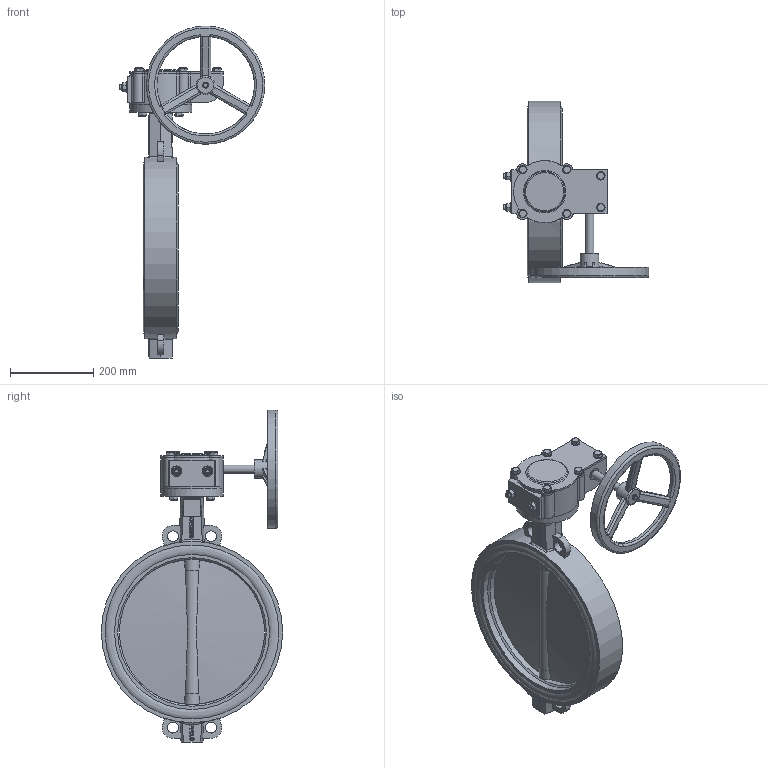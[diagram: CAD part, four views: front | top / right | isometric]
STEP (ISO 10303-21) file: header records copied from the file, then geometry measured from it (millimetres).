
FILE_DESCRIPTION(('STEP AP242'), '1');
FILE_NAME('Ïîâîðîòíûé çàòâîð ïîä ýëåêòðîïðèâîä', '', ('UNSPECIFIED'), ('UNSPECIFIED'), 'C3D Converter', 'C3D Toolkit', '');
FILE_SCHEMA(('AP242_MANAGED_MODEL_BASED_3D_ENGINEERING_MIM_LF { 1 0 10303 442 1 1 4 }'));
Length unit declared in the file: millimetre
Products named in the file (17): П
Assembly tree (36 placements, depth 3):
  (unnamed)
    (unnamed)
    П  x2
    (unnamed)
    (unnamed)
    (unnamed)
    (unnamed)
      (unnamed)
      (unnamed)
      (unnamed)
      (unnamed)
      (unnamed)  x6
      (unnamed)  x6
      (unnamed)  x2
      (unnamed)  x2
      (unnamed)
    (unnamed)  x4
    (unnamed)  x4
Bounding box: 350.5 x 437 x 799.5 mm (x, y, z)
Volume: 9542012.8 mm3; surface area: 1427644 mm2
Topology: 35 solids, 35 shells, 826 faces, 1975 edges, 1278 vertices
Faces by surface type: plane 387, extrusion 157, cylinder 145, bspline 60, cone 44, torus 29, sphere 4
Full cylindrical faces by diameter (mm): 6 x2, 10.647 x2, 11.421 x1, 12 x30, 13 x10, 14 x4, 20 x13, 26 x4, 27 x6, 30 x2, 37.05 x4, 38.184 x5, 45 x1, 150 x2, 235 x1, 245 x1, 275 x1, 285 x1, 350 x1, 357.8 x2, 373.4 x2, 396.1 x4, 418.8 x4, 437 x1
Entity records: 33670 total; most frequent: CARTESIAN_POINT 15741, ORIENTED_EDGE 3076, DIRECTION 2387, EDGE_CURVE 1538, VERTEX_POINT 1072, EDGE_LOOP 872, VECTOR 831, AXIS2_PLACEMENT_3D 778
